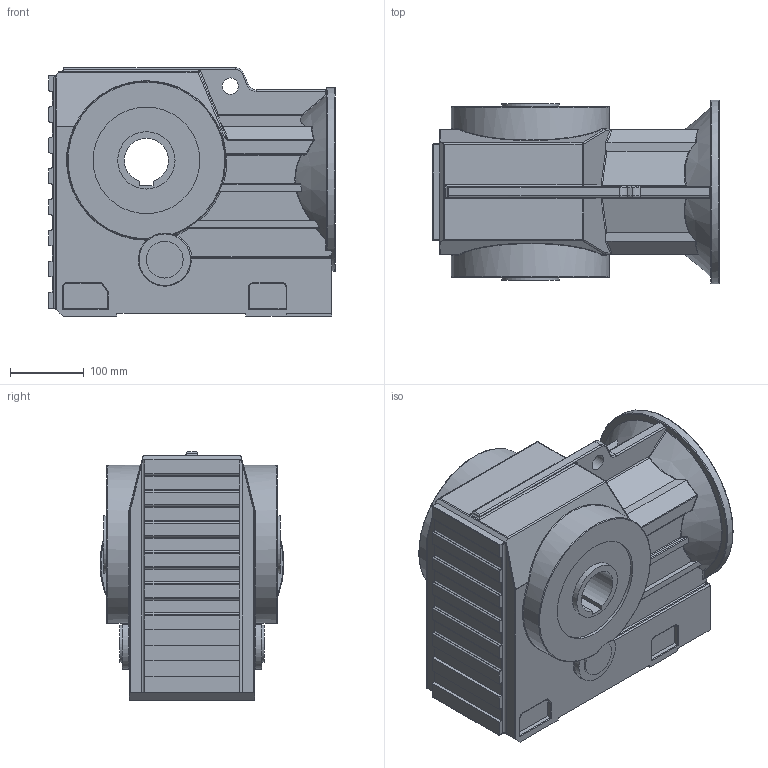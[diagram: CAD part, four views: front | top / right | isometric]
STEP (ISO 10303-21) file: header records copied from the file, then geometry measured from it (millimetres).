
FILE_DESCRIPTION((''),'2;1');
FILE_NAME('F:\PAWEŁ\ZLECENIA\2011 DualSystem\Przekładnie DK\001 Modele\DKAB80_\DK_80_STEP\DK_A_80.stp','2012-06-26T19:11:44',('admin'),(''),'Autodesk Inventor 2009','Autodesk Inventor 2009','');
FILE_SCHEMA(('AUTOMOTIVE_DESIGN { 1 0 10303 214 1 1 1 1 }'));
Length unit declared in the file: millimetre
Products named in the file (1): DK_A_80
Bounding box: 390 x 250 x 338 mm (x, y, z)
Volume: 20991853 mm3; surface area: 627351.6 mm2
Topology: 1 solids, 1 shells, 457 faces, 1119 edges, 664 vertices
Faces by surface type: cylinder 169, bspline 128, plane 117, torus 30, sphere 11, cone 2
Full cylindrical faces by diameter (mm): 13.835 x4, 22 x1, 50 x1, 78 x1, 145 x1, 180 x1, 250 x1
Entity records: 19738 total; most frequent: CARTESIAN_POINT 9521, ORIENTED_EDGE 2178, DIRECTION 2039, EDGE_CURVE 1089, AXIS2_PLACEMENT_3D 782, VERTEX_POINT 663, EDGE_LOOP 490, VECTOR 475
